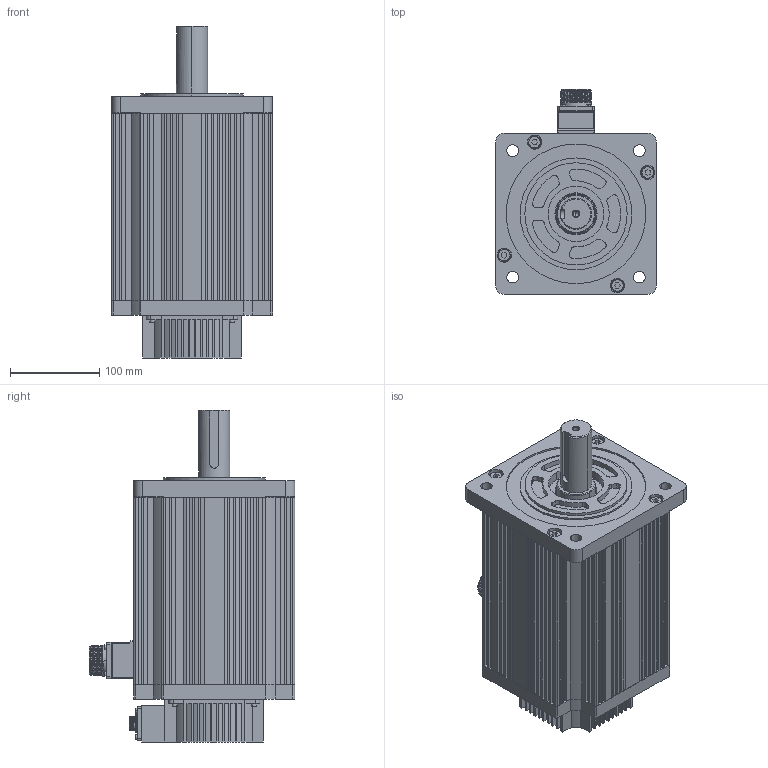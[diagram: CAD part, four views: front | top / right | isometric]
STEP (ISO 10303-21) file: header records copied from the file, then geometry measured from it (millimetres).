
FILE_DESCRIPTION (( 'STEP AP203' ), '1' );
FILE_NAME ('VM5-M18D-7R515-D1.STEP', '2019-02-23T02:24:32', ( 'ZSM' ), ( '' ), 'SwSTEP 2.0', 'SolidWorks 2014', '' );
FILE_SCHEMA (( 'CONFIG_CONTROL_DESIGN' ));
Length unit declared in the file: millimetre
Products named in the file (17): GB／T70．1-2000内六角圆柱头螺钉M3×6; D18B103G_D18B103G1; 瑤諾脣芛 16M-9H; VM5-M18D-7R515-D1; D18B102M1; D18B1004G_D18B1004G3; D18B102N1-; D13B111A; GB／T848-2002小垫圈A级8×1．6; D18B102P; GB／T70．1-2000内六角圆柱头螺钉M8×20; GB T848-2002 ±3; GX2-D18B101E_D18B101E3; 晤鎢ん裔啣 D18B102AB; GB／T70．1-2000内六角圆柱头螺钉M3×10; D18B1003E_D18B1003E3; CMS3102A22-22P-Z
Assembly tree (48 placements, depth 3):
  VM5-M18D-7R515-D1
    D18B1003E_D18B1003E3
      GX2-D18B101E_D18B101E3
    D18B1004G_D18B1004G3
      D18B103G_D18B103G1
      D18B102M1
    D18B102N1-
    D13B111A
    D18B102P
    GB T848-2002 ±3  x9
    GB／T70．1-2000内六角圆柱头螺钉M3×10  x11
    GB／T70．1-2000内六角圆柱头螺钉M3×6  x4
    GB／T848-2002小垫圈A级8×1．6  x5
    GB／T70．1-2000内六角圆柱头螺钉M8×20  x8
    晤鎢ん裔啣 D18B102AB
    CMS3102A22-22P-Z
    瑤諾脣芛 16M-9H
Bounding box: 180 x 229.6 x 371 mm (x, y, z)
Volume: 2651395.8 mm3; surface area: 707332.5 mm2
Topology: 46 solids, 46 shells, 1788 faces, 4409 edges, 2830 vertices
Faces by surface type: plane 819, cylinder 693, torus 150, cone 104, sphere 14, bspline 8
Entity records: 45962 total; most frequent: CARTESIAN_POINT 10013, DIRECTION 7233, ORIENTED_EDGE 6782, EDGE_CURVE 3391, AXIS2_PLACEMENT_3D 2619, VERTEX_POINT 2206, VECTOR 1995, LINE 1995
